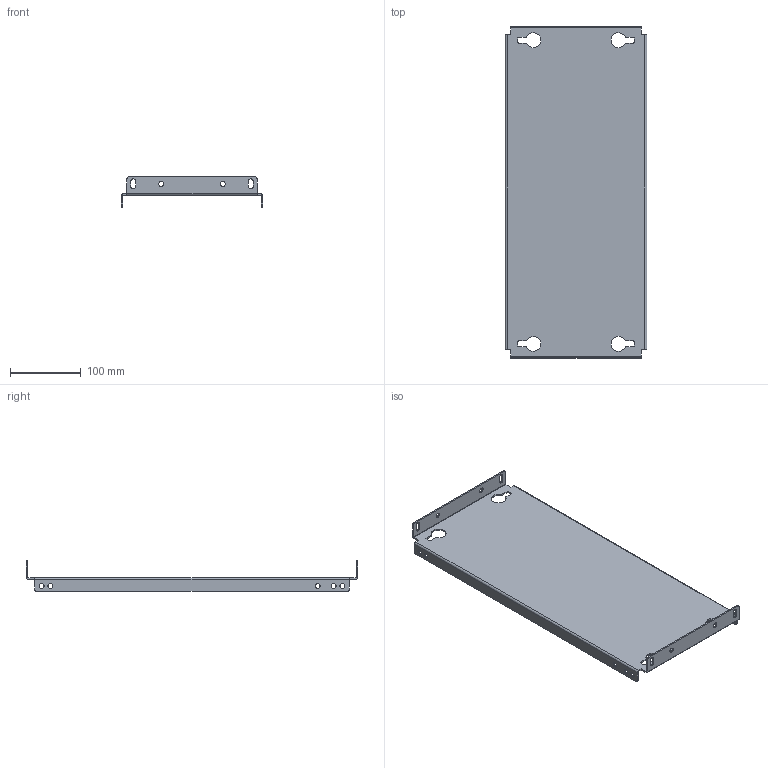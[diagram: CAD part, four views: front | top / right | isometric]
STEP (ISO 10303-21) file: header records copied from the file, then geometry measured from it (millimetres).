
FILE_DESCRIPTION (( 'STEP AP203' ), '1' );
FILE_NAME ('R5PPS5003.STEP', '2021-12-20T06:26:43', ( '' ), ( '' ), 'SwSTEP 2.0', 'SolidWorks 2020', '' );
FILE_SCHEMA (( 'CONFIG_CONTROL_DESIGN' ));
Length unit declared in the file: millimetre
Products named in the file (1): R5PPS5003
Bounding box: 200 x 469 x 43 mm (x, y, z)
Volume: 227659.2 mm3; surface area: 232250.1 mm2
Topology: 1 solids, 1 shells, 136 faces, 370 edges, 236 vertices
Faces by surface type: cylinder 78, plane 58
Entity records: 4479 total; most frequent: DIRECTION 800, CARTESIAN_POINT 743, ORIENTED_EDGE 740, EDGE_CURVE 370, AXIS2_PLACEMENT_3D 293, VERTEX_POINT 236, VECTOR 214, LINE 214
